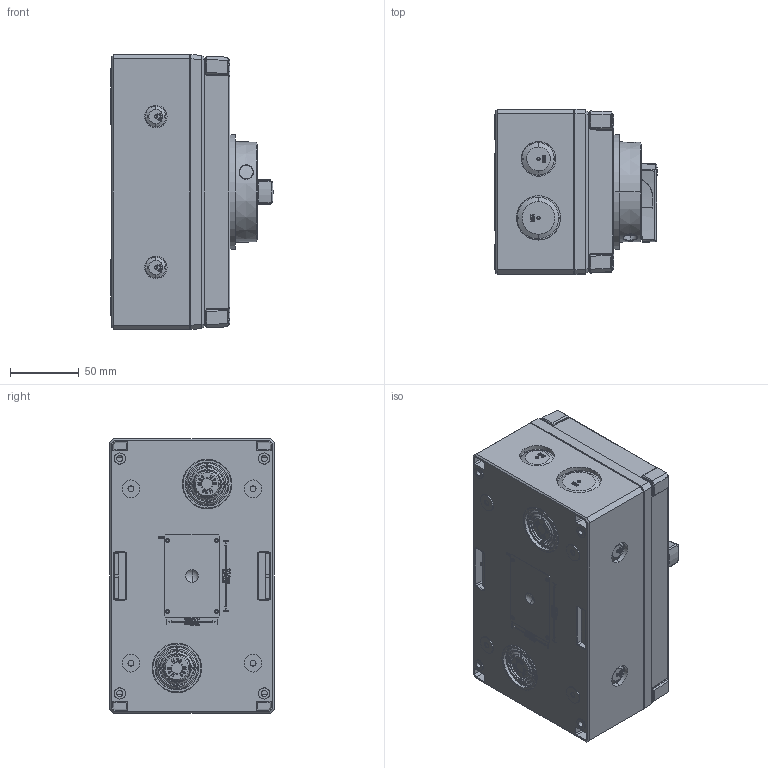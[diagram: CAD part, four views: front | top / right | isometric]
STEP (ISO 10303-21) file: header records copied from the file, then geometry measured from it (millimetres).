
FILE_DESCRIPTION (( 'STEP AP203' ), '1' );
FILE_NAME ('NF2-80BO.STEP', '2024-03-01T06:40:39', ( 'wzjh' ), ( '' ), 'SwSTEP 2.0', 'SolidWorks 2023', '' );
FILE_SCHEMA (( 'CONFIG_CONTROL_DESIGN' ));
Products named in the file (1): NF2-80BO
Bounding box: 118.25 x 120 x 200 mm (x, y, z)
Volume: 2015585.5 mm3; surface area: 164428.7 mm2
Topology: 2 solids, 7 shells, 2832 faces, 7573 edges, 4906 vertices
Faces by surface type: plane 1586, bspline 551, cylinder 330, cone 279, torus 75, sphere 11
Entity records: 105971 total; most frequent: CARTESIAN_POINT 40309, ORIENTED_EDGE 15080, DIRECTION 11258, EDGE_CURVE 7540, VERTEX_POINT 4906, VECTOR 4364, LINE 4364, AXIS2_PLACEMENT_3D 3447
